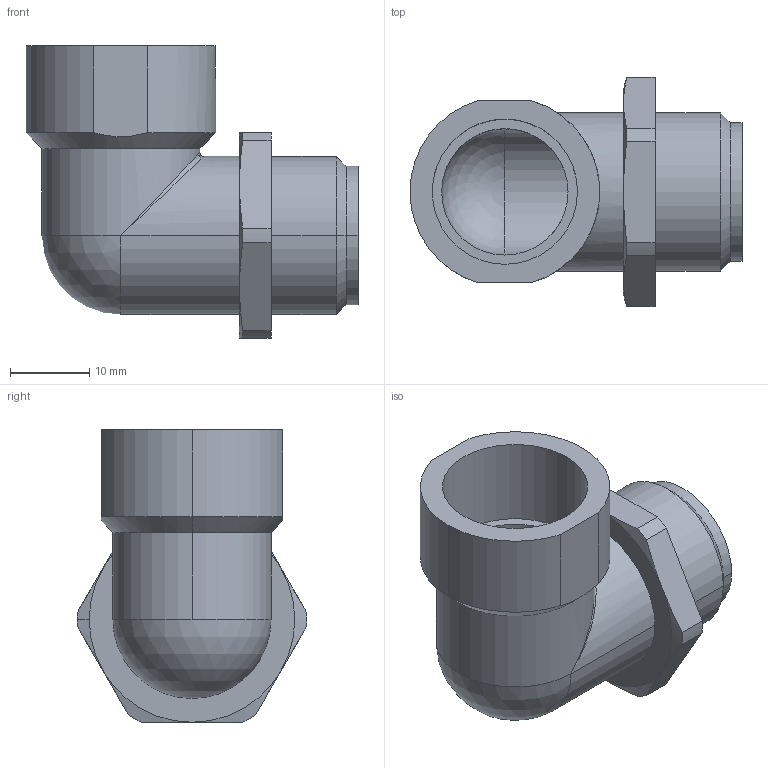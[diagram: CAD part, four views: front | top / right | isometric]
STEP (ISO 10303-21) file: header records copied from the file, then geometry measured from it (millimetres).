
FILE_DESCRIPTION (( 'STEP AP203' ), '1' );
FILE_NAME ('21.620M.STEP', '2006-01-13T13:13:00', ( ' ' ), ( '' ), 'SwSTEP 2.0', 'SolidWorks 2005278', '' );
FILE_SCHEMA (( 'CONFIG_CONTROL_DESIGN' ));
Length unit declared in the file: millimetre
Products named in the file (1): 21.620M
Bounding box: 42 x 29 x 37 mm (x, y, z)
Volume: 7679.3 mm3; surface area: 7257.5 mm2
Topology: 1 solids, 1 shells, 91 faces, 233 edges, 145 vertices
Faces by surface type: plane 51, cylinder 23, cone 13, sphere 2, bspline 2
Entity records: 3575 total; most frequent: CARTESIAN_POINT 1335, ORIENTED_EDGE 450, DIRECTION 442, EDGE_CURVE 225, VECTOR 148, LINE 148, AXIS2_PLACEMENT_3D 147, VERTEX_POINT 143
